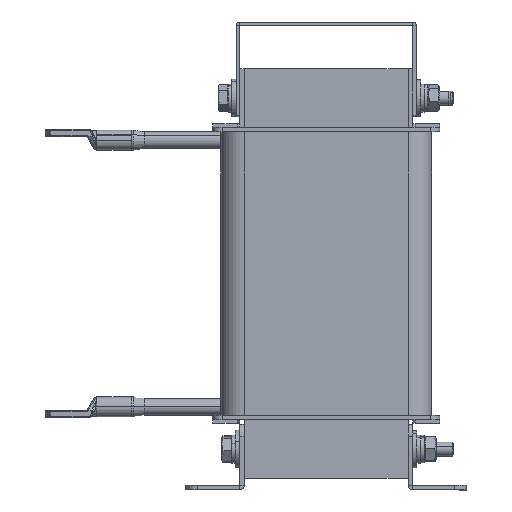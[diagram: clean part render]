
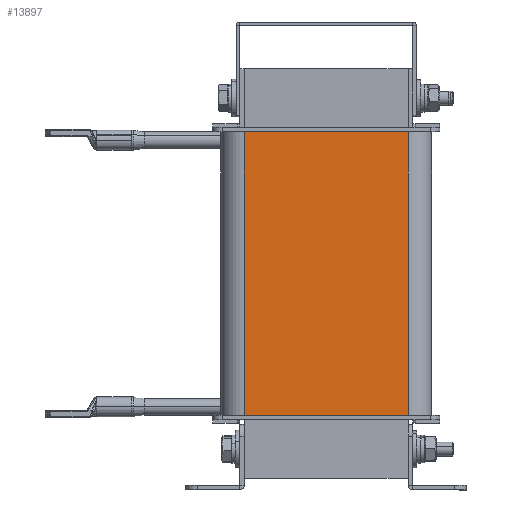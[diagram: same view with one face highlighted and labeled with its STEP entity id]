
A CAD part, left-side view. The second image highlights one B-rep face of the part: STEP entity #13897.
In plain terms, the highlighted planar face has unit normal (-1, 0, 0).
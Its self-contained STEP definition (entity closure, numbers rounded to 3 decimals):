
#229 = CARTESIAN_POINT ( 'NONE',  ( -27., -35., 0. ) ) ;
#251 = ORIENTED_EDGE ( 'NONE', *, *, #6285, .F. ) ;
#748 = ORIENTED_EDGE ( 'NONE', *, *, #12671, .T. ) ;
#935 = DIRECTION ( 'NONE',  ( 0., 0., 1. ) ) ;
#1225 = CARTESIAN_POINT ( 'NONE',  ( -27., 35., -121. ) ) ;
#1387 = CARTESIAN_POINT ( 'NONE',  ( -27., -35., -121. ) ) ;
#1868 = DIRECTION ( 'NONE',  ( 0., -1., 0. ) ) ;
#2762 = AXIS2_PLACEMENT_3D ( 'NONE', #4081, #12149, #935 ) ;
#2778 = CARTESIAN_POINT ( 'NONE',  ( -27., 35., -121. ) ) ;
#3254 = LINE ( 'NONE', #7787, #10656 ) ;
#4081 = CARTESIAN_POINT ( 'NONE',  ( -27., 45., -121. ) ) ;
#4148 = LINE ( 'NONE', #13098, #12590 ) ;
#4531 = LINE ( 'NONE', #1387, #13059 ) ;
#4957 = CARTESIAN_POINT ( 'NONE',  ( -27., -35., -121. ) ) ;
#5317 = PLANE ( 'NONE',  #2762 ) ;
#5857 = DIRECTION ( 'NONE',  ( 0., 0., 1. ) ) ;
#6285 = EDGE_CURVE ( 'NONE', #10648, #12543, #3254, .T. ) ;
#6376 = EDGE_LOOP ( 'NONE', ( #251, #9940, #748, #12421 ) ) ;
#7448 = FACE_OUTER_BOUND ( 'NONE', #6376, .T. ) ;
#7522 = DIRECTION ( 'NONE',  ( 0., -1., 0. ) ) ;
#7787 = CARTESIAN_POINT ( 'NONE',  ( -27., 45., 0. ) ) ;
#9603 = LINE ( 'NONE', #2778, #10950 ) ;
#9940 = ORIENTED_EDGE ( 'NONE', *, *, #13327, .T. ) ;
#10369 = CARTESIAN_POINT ( 'NONE',  ( -27., 35., 0. ) ) ;
#10648 = VERTEX_POINT ( 'NONE', #10369 ) ;
#10656 = VECTOR ( 'NONE', #1868, 1000. ) ;
#10950 = VECTOR ( 'NONE', #12748, 1000. ) ;
#12149 = DIRECTION ( 'NONE',  ( -1., 0., 0. ) ) ;
#12421 = ORIENTED_EDGE ( 'NONE', *, *, #12554, .T. ) ;
#12543 = VERTEX_POINT ( 'NONE', #229 ) ;
#12554 = EDGE_CURVE ( 'NONE', #13821, #12543, #4531, .T. ) ;
#12590 = VECTOR ( 'NONE', #7522, 1000. ) ;
#12671 = EDGE_CURVE ( 'NONE', #13699, #13821, #4148, .T. ) ;
#12748 = DIRECTION ( 'NONE',  ( 0., 0., -1. ) ) ;
#13059 = VECTOR ( 'NONE', #5857, 1000. ) ;
#13098 = CARTESIAN_POINT ( 'NONE',  ( -27., 45., -121. ) ) ;
#13327 = EDGE_CURVE ( 'NONE', #10648, #13699, #9603, .T. ) ;
#13699 = VERTEX_POINT ( 'NONE', #1225 ) ;
#13821 = VERTEX_POINT ( 'NONE', #4957 ) ;
#13897 = ADVANCED_FACE ( 'NONE', ( #7448 ), #5317, .T. ) ;
